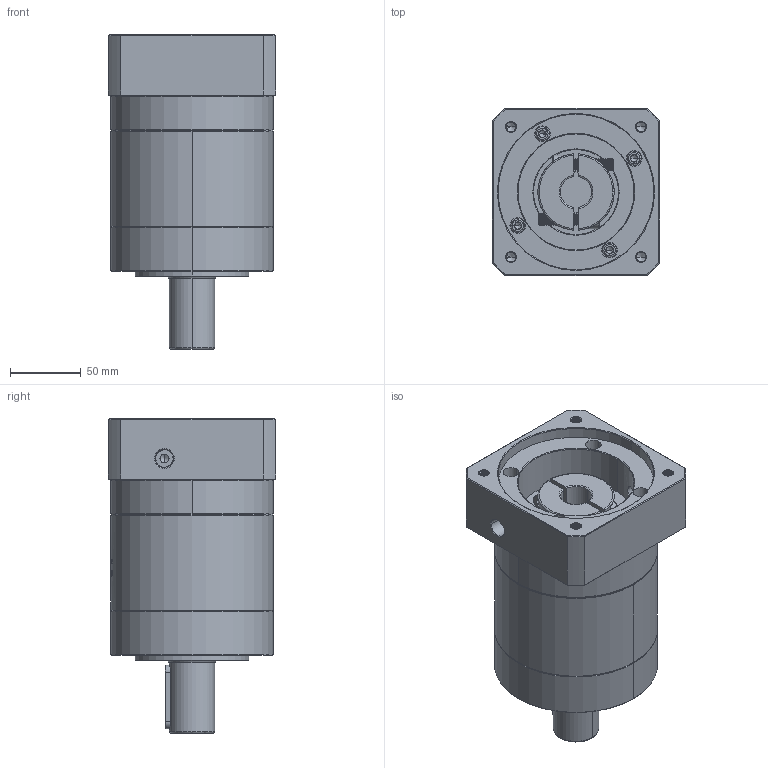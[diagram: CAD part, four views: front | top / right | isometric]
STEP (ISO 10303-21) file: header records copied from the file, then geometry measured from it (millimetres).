
FILE_DESCRIPTION (( 'STEP AP214' ), '1' );
FILE_NAME ('ZE120A-D32-L2-22-110-130-M8.step', '2023-03-09T06:28:36', ( '' ), ( '' ), 'SwSTEP 2.0', 'SolidWorks 2016', '' );
FILE_SCHEMA (( 'AUTOMOTIVE_DESIGN' ));
Length unit declared in the file: millimetre
Products named in the file (1): ZE120A-D32-L2-22-110-130-M8
Bounding box: 118 x 118 x 222 mm (x, y, z)
Volume: 1695844.9 mm3; surface area: 172033.3 mm2
Topology: 6 solids, 6 shells, 2044 faces, 5410 edges, 3463 vertices
Faces by surface type: plane 836, cylinder 520, bspline 353, cone 335
Entity records: 119244 total; most frequent: CARTESIAN_POINT 50722, ORIENTED_EDGE 10744, DIRECTION 8086, EDGE_CURVE 5372, VERTEX_POINT 3463, VECTOR 2812, LINE 2812, AXIS2_PLACEMENT_3D 2637
